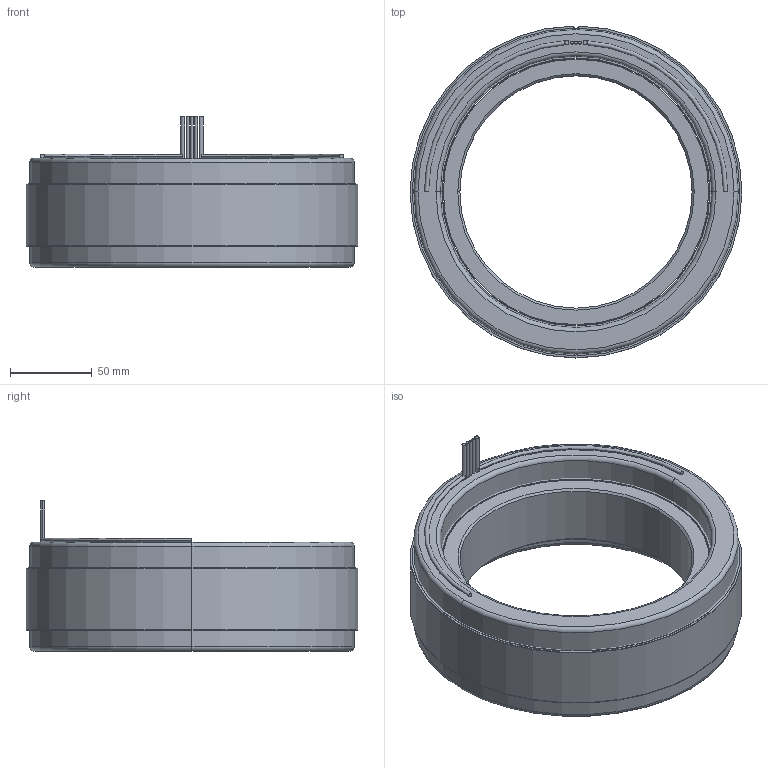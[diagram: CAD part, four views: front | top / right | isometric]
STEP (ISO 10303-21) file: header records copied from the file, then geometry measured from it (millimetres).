
FILE_DESCRIPTION (( 'STEP AP214' ), '1' );
FILE_NAME ('6100326-03.STEP', '2019-10-23T23:25:01', ( '' ), ( '' ), 'SwSTEP 2.0', 'SolidWorks 2016', '' );
FILE_SCHEMA (( 'AUTOMOTIVE_DESIGN' ));
Length unit declared in the file: millimetre
Products named in the file (11): 4250358-XX_4250358-03; 4500534-XX_4500534-03; 4600534-00; 4400075-00; 4450161-XX_4450161-03; 6100326-03; 4150150-XX_4150150-03; COMP4500534-XX(COIL)_COMP4500534-03
Assembly tree (10 placements, depth 4):
  6100326-03
    4500534-XX_4500534-03
      4450161-XX_4450161-03
        4450161-XX_4450161-03
        4400075-00
        4400075-00
        4600534-00
        4600534-00
      COMP4500534-XX(COIL)_COMP4500534-03
    4250358-XX_4250358-03
      4150150-XX_4150150-03
Bounding box: 203.2 x 203.19 x 91.95 mm (x, y, z)
Volume: 1233782.8 mm3; surface area: 295409.3 mm2
Topology: 14 solids, 14 shells, 94 faces, 186 edges, 120 vertices
Faces by surface type: cylinder 50, plane 28, torus 12, cone 4
Entity records: 2985 total; most frequent: DIRECTION 538, CARTESIAN_POINT 416, ORIENTED_EDGE 372, AXIS2_PLACEMENT_3D 242, EDGE_CURVE 186, CIRCLE 132, VERTEX_POINT 120, EDGE_LOOP 108
